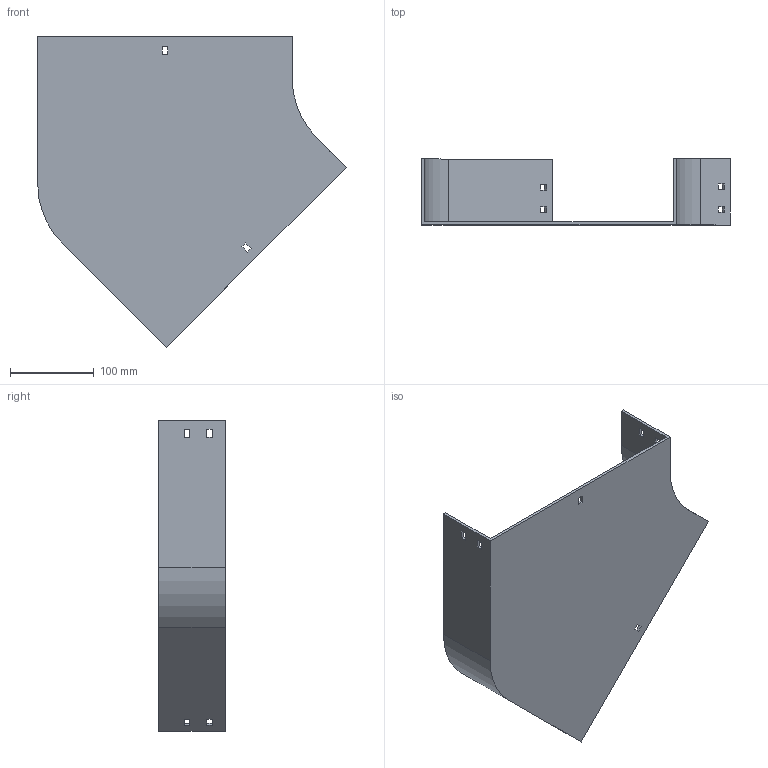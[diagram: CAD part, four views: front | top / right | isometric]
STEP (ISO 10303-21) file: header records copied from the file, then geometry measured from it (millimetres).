
FILE_DESCRIPTION (( 'STEP AP214' ), '1' );
FILE_NAME ('11B1C300.step', '2025-02-21T09:38:44', ( '' ), ( '' ), 'SwSTEP 2.0', 'SolidWorks 2023', '' );
FILE_SCHEMA (( 'AUTOMOTIVE_DESIGN' ));
Length unit declared in the file: millimetre
Products named in the file (1): 11B1C300
Bounding box: 368.64 x 79 x 371.03 mm (x, y, z)
Volume: 487062.5 mm3; surface area: 284806.7 mm2
Topology: 1 solids, 1 shells, 58 faces, 168 edges, 112 vertices
Faces by surface type: plane 54, cylinder 4
Entity records: 1943 total; most frequent: CARTESIAN_POINT 339, ORIENTED_EDGE 336, DIRECTION 294, EDGE_CURVE 168, LINE 160, VECTOR 160, VERTEX_POINT 112, EDGE_LOOP 78
